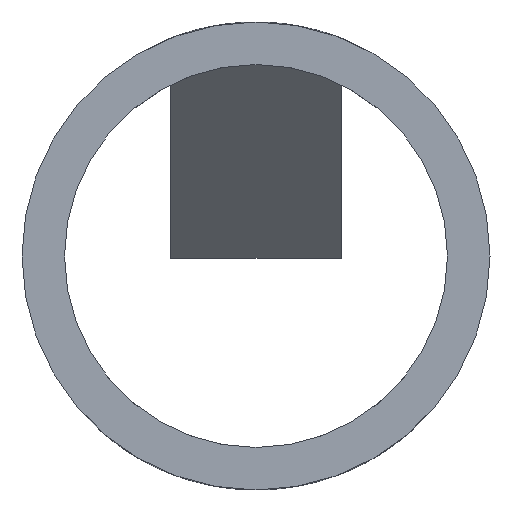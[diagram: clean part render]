
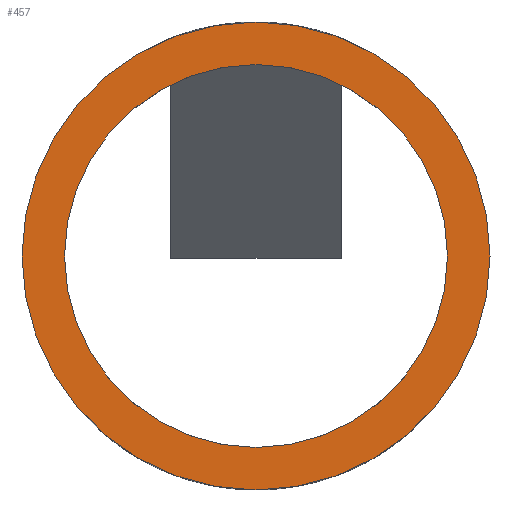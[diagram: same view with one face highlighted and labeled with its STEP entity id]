
A CAD part, front view. The second image highlights one B-rep face of the part: STEP entity #457.
In plain terms, the highlighted planar face has unit normal (0, -1, 0).
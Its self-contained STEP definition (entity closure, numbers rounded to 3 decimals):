
#47 = FACE_OUTER_BOUND ( 'NONE', #847, .T. ) ;
#51 = FACE_BOUND ( 'NONE', #865, .T. ) ;
#87 = CIRCLE ( 'NONE', #247, 4.5 ) ;
#112 = CIRCLE ( 'NONE', #246, 4.5 ) ;
#116 = CIRCLE ( 'NONE', #178, 5.5 ) ;
#178 = AXIS2_PLACEMENT_3D ( 'NONE', #288, #284, #282 ) ;
#207 = EDGE_CURVE ( 'NONE', #435, #428, #116, .T. ) ;
#214 = EDGE_CURVE ( 'NONE', #434, #440, #112, .T. ) ;
#235 = AXIS2_PLACEMENT_3D ( 'NONE', #766, #743, #742 ) ;
#241 = AXIS2_PLACEMENT_3D ( 'NONE', #543, #537, #536 ) ;
#246 = AXIS2_PLACEMENT_3D ( 'NONE', #670, #626, #623 ) ;
#247 = AXIS2_PLACEMENT_3D ( 'NONE', #556, #542, #541 ) ;
#250 = EDGE_CURVE ( 'NONE', #440, #434, #87, .T. ) ;
#252 = EDGE_CURVE ( 'NONE', #428, #435, #274, .T. ) ;
#274 = CIRCLE ( 'NONE', #241, 5.5 ) ;
#282 = DIRECTION ( 'NONE',  ( -1., 0., 0. ) ) ;
#284 = DIRECTION ( 'NONE',  ( 0., -1., 0. ) ) ;
#288 = CARTESIAN_POINT ( 'NONE',  ( 0., 0., 0. ) ) ;
#428 = VERTEX_POINT ( 'NONE', #529 ) ;
#434 = VERTEX_POINT ( 'NONE', #783 ) ;
#435 = VERTEX_POINT ( 'NONE', #782 ) ;
#440 = VERTEX_POINT ( 'NONE', #777 ) ;
#457 = ADVANCED_FACE ( 'NONE', ( #47, #51 ), #744, .T. ) ;
#479 = ORIENTED_EDGE ( 'NONE', *, *, #252, .T. ) ;
#480 = ORIENTED_EDGE ( 'NONE', *, *, #207, .T. ) ;
#483 = ORIENTED_EDGE ( 'NONE', *, *, #214, .F. ) ;
#484 = ORIENTED_EDGE ( 'NONE', *, *, #250, .F. ) ;
#529 = CARTESIAN_POINT ( 'NONE',  ( -5.5, 0., 0. ) ) ;
#536 = DIRECTION ( 'NONE',  ( -1., 0., 0. ) ) ;
#537 = DIRECTION ( 'NONE',  ( 0., -1., 0. ) ) ;
#541 = DIRECTION ( 'NONE',  ( -1., 0., 0. ) ) ;
#542 = DIRECTION ( 'NONE',  ( 0., -1., 0. ) ) ;
#543 = CARTESIAN_POINT ( 'NONE',  ( 0., 0., 0. ) ) ;
#556 = CARTESIAN_POINT ( 'NONE',  ( 0., 0., 0. ) ) ;
#623 = DIRECTION ( 'NONE',  ( -1., 0., 0. ) ) ;
#626 = DIRECTION ( 'NONE',  ( 0., -1., 0. ) ) ;
#670 = CARTESIAN_POINT ( 'NONE',  ( 0., 0., 0. ) ) ;
#742 = DIRECTION ( 'NONE',  ( -1., 0., 0. ) ) ;
#743 = DIRECTION ( 'NONE',  ( 0., -1., 0. ) ) ;
#744 = PLANE ( 'NONE',  #235 ) ;
#766 = CARTESIAN_POINT ( 'NONE',  ( 0., 0., 0. ) ) ;
#777 = CARTESIAN_POINT ( 'NONE',  ( 4.5, 0., 0. ) ) ;
#782 = CARTESIAN_POINT ( 'NONE',  ( 5.5, 0., 0. ) ) ;
#783 = CARTESIAN_POINT ( 'NONE',  ( -4.5, 0., 0. ) ) ;
#847 = EDGE_LOOP ( 'NONE', ( #480, #479 ) ) ;
#865 = EDGE_LOOP ( 'NONE', ( #484, #483 ) ) ;
